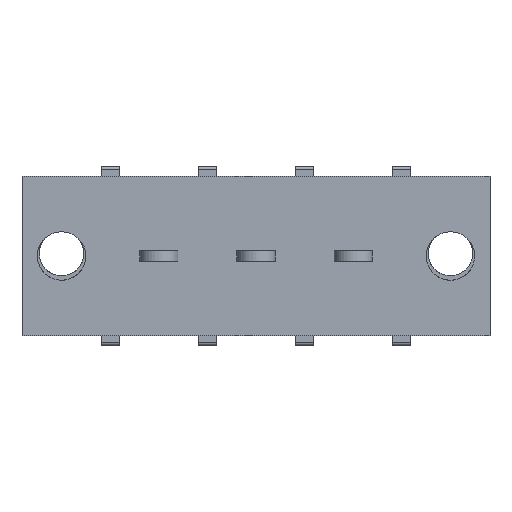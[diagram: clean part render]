
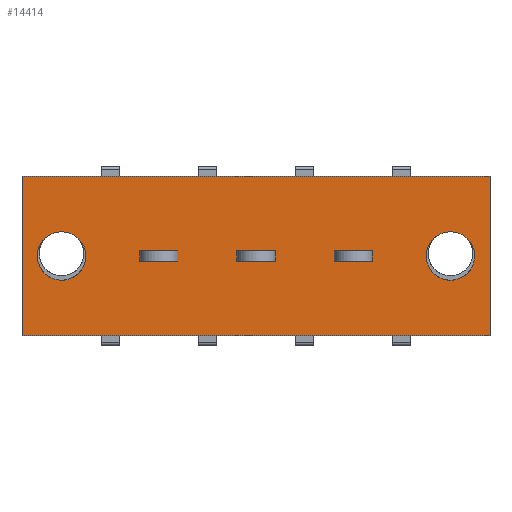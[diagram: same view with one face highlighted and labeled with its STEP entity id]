
A CAD part, front view. The second image highlights one B-rep face of the part: STEP entity #14414.
In plain terms, the highlighted planar face has unit normal (0, -1, 0).
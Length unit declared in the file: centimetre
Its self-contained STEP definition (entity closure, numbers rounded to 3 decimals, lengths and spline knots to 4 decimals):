
#753=PLANE('',#23505);
#1506=VECTOR('',#15564,1.);
#1701=VECTOR('',#15984,1.);
#1716=VECTOR('',#16003,1.);
#1730=VECTOR('',#16054,1.);
#1732=VECTOR('',#16057,1.);
#1781=VECTOR('',#16152,1.);
#1790=VECTOR('',#16164,1.);
#1791=VECTOR('',#16165,1.);
#1792=VECTOR('',#16166,1.);
#1793=VECTOR('',#16167,1.);
#1794=VECTOR('',#16168,1.);
#1795=VECTOR('',#16169,1.);
#1796=VECTOR('',#16170,1.);
#1797=VECTOR('',#16171,1.);
#1798=VECTOR('',#16172,1.);
#1799=VECTOR('',#16173,1.);
#3110=LINE('',#19343,#1506);
#3305=LINE('',#19958,#1701);
#3320=LINE('',#19991,#1716);
#3334=LINE('',#20040,#1730);
#3336=LINE('',#20044,#1732);
#3385=LINE('',#20165,#1781);
#3394=LINE('',#20184,#1790);
#3395=LINE('',#20187,#1791);
#3396=LINE('',#20189,#1792);
#3397=LINE('',#20191,#1793);
#3398=LINE('',#20192,#1794);
#3399=LINE('',#20195,#1795);
#3400=LINE('',#20197,#1796);
#3401=LINE('',#20199,#1797);
#3402=LINE('',#20200,#1798);
#3403=LINE('',#20202,#1799);
#4647=VERTEX_POINT('',#19342);
#4648=VERTEX_POINT('',#19344);
#4649=VERTEX_POINT('',#19348);
#4843=VERTEX_POINT('',#19959);
#4844=VERTEX_POINT('',#19960);
#4857=VERTEX_POINT('',#19992);
#4870=VERTEX_POINT('',#20041);
#4913=VERTEX_POINT('',#20166);
#4920=VERTEX_POINT('',#20183);
#4921=VERTEX_POINT('',#20185);
#4922=VERTEX_POINT('',#20186);
#4923=VERTEX_POINT('',#20188);
#4924=VERTEX_POINT('',#20190);
#4925=VERTEX_POINT('',#20193);
#4926=VERTEX_POINT('',#20194);
#4927=VERTEX_POINT('',#20196);
#4928=VERTEX_POINT('',#20198);
#4929=VERTEX_POINT('',#20201);
#5706=CIRCLE('',#23300,0.19);
#5780=CIRCLE('',#23506,0.19);
#6452=EDGE_CURVE('',#4648,#4647,#3110,.T.);
#6454=EDGE_CURVE('',#4649,#4649,#5706,.T.);
#6735=EDGE_CURVE('',#4843,#4844,#3305,.T.);
#6752=EDGE_CURVE('',#4857,#4843,#3320,.T.);
#6776=EDGE_CURVE('',#4870,#4857,#3334,.T.);
#6778=EDGE_CURVE('',#4844,#4870,#3336,.T.);
#6838=EDGE_CURVE('',#4913,#4647,#3385,.T.);
#6847=EDGE_CURVE('',#4920,#4920,#5780,.T.);
#6848=EDGE_CURVE('',#4921,#4922,#3394,.T.);
#6849=EDGE_CURVE('',#4922,#4923,#3395,.T.);
#6850=EDGE_CURVE('',#4923,#4924,#3396,.T.);
#6851=EDGE_CURVE('',#4924,#4921,#3397,.T.);
#6852=EDGE_CURVE('',#4925,#4926,#3398,.T.);
#6853=EDGE_CURVE('',#4926,#4927,#3399,.T.);
#6854=EDGE_CURVE('',#4927,#4928,#3400,.T.);
#6855=EDGE_CURVE('',#4928,#4925,#3401,.T.);
#6856=EDGE_CURVE('',#4929,#4648,#3402,.T.);
#6857=EDGE_CURVE('',#4929,#4913,#3403,.T.);
#9839=ORIENTED_EDGE('',*,*,#6454,.T.);
#9840=ORIENTED_EDGE('',*,*,#6847,.T.);
#9841=ORIENTED_EDGE('',*,*,#6752,.F.);
#9842=ORIENTED_EDGE('',*,*,#6776,.F.);
#9843=ORIENTED_EDGE('',*,*,#6778,.F.);
#9844=ORIENTED_EDGE('',*,*,#6735,.F.);
#9845=ORIENTED_EDGE('',*,*,#6848,.T.);
#9846=ORIENTED_EDGE('',*,*,#6849,.T.);
#9847=ORIENTED_EDGE('',*,*,#6850,.T.);
#9848=ORIENTED_EDGE('',*,*,#6851,.T.);
#9849=ORIENTED_EDGE('',*,*,#6852,.T.);
#9850=ORIENTED_EDGE('',*,*,#6853,.T.);
#9851=ORIENTED_EDGE('',*,*,#6854,.T.);
#9852=ORIENTED_EDGE('',*,*,#6855,.T.);
#9853=ORIENTED_EDGE('',*,*,#6856,.T.);
#9854=ORIENTED_EDGE('',*,*,#6452,.T.);
#9855=ORIENTED_EDGE('',*,*,#6838,.F.);
#9856=ORIENTED_EDGE('',*,*,#6857,.F.);
#12681=EDGE_LOOP('',(#9839));
#12682=EDGE_LOOP('',(#9840));
#12683=EDGE_LOOP('',(#9841,#9842,#9843,#9844));
#12684=EDGE_LOOP('',(#9845,#9846,#9847,#9848));
#12685=EDGE_LOOP('',(#9849,#9850,#9851,#9852));
#12686=EDGE_LOOP('',(#9853,#9854,#9855,#9856));
#13567=FACE_BOUND('',#12681,.T.);
#13568=FACE_BOUND('',#12682,.T.);
#13569=FACE_BOUND('',#12683,.T.);
#13570=FACE_BOUND('',#12684,.T.);
#13571=FACE_BOUND('',#12685,.T.);
#13572=FACE_BOUND('',#12686,.T.);
#14414=ADVANCED_FACE('',(#13567,#13568,#13569,#13570,#13571,#13572),#753,
 .T.);
#15564=DIRECTION('',(0.,0.,1.));
#15568=DIRECTION('',(0.,1.,0.));
#15569=DIRECTION('',(0.19,0.,0.));
#15984=DIRECTION('',(0.,0.,1.));
#16003=DIRECTION('',(1.,0.,0.));
#16054=DIRECTION('',(0.,0.,-1.));
#16057=DIRECTION('',(-1.,0.,0.));
#16152=DIRECTION('',(1.,0.,0.));
#16161=DIRECTION('',(0.,-1.,0.));
#16162=DIRECTION('',(0.,1.,0.));
#16163=DIRECTION('',(0.19,0.,0.));
#16164=DIRECTION('',(-1.,0.,0.));
#16165=DIRECTION('',(0.,0.,1.));
#16166=DIRECTION('',(1.,0.,0.));
#16167=DIRECTION('',(0.,0.,-1.));
#16168=DIRECTION('',(-1.,0.,0.));
#16169=DIRECTION('',(0.,0.,1.));
#16170=DIRECTION('',(1.,0.,0.));
#16171=DIRECTION('',(0.,0.,-1.));
#16172=DIRECTION('',(1.,0.,0.));
#16173=DIRECTION('',(0.,0.,1.));
#19342=CARTESIAN_POINT('',(2.286,0.,0.625));
#19343=CARTESIAN_POINT('',(2.286,0.,-0.625));
#19344=CARTESIAN_POINT('',(2.286,0.,-0.625));
#19347=CARTESIAN_POINT('',(1.976,0.,0.));
#19348=CARTESIAN_POINT('',(1.786,0.,0.));
#19958=CARTESIAN_POINT('',(-0.185,0.,0.));
#19959=CARTESIAN_POINT('',(-0.185,0.,-0.04));
#19960=CARTESIAN_POINT('',(-0.185,0.,0.04));
#19991=CARTESIAN_POINT('',(-0.465,0.,-0.04));
#19992=CARTESIAN_POINT('',(-0.435,0.,-0.04));
#20040=CARTESIAN_POINT('',(-0.435,0.,0.));
#20041=CARTESIAN_POINT('',(-0.435,0.,0.04));
#20044=CARTESIAN_POINT('',(-0.465,0.,0.04));
#20165=CARTESIAN_POINT('',(-1.382,0.,0.625));
#20166=CARTESIAN_POINT('',(-1.382,0.,0.625));
#20181=CARTESIAN_POINT('',(0.,0.,0.));
#20182=CARTESIAN_POINT('',(-1.072,0.,0.));
#20183=CARTESIAN_POINT('',(-1.262,0.,0.));
#20184=CARTESIAN_POINT('',(0.607,0.,-0.04));
#20185=CARTESIAN_POINT('',(1.339,0.,-0.04));
#20186=CARTESIAN_POINT('',(1.089,0.,-0.04));
#20187=CARTESIAN_POINT('',(1.089,0.,0.));
#20188=CARTESIAN_POINT('',(1.089,0.,0.04));
#20189=CARTESIAN_POINT('',(0.607,0.,0.04));
#20190=CARTESIAN_POINT('',(1.339,0.,0.04));
#20191=CARTESIAN_POINT('',(1.339,0.,0.));
#20192=CARTESIAN_POINT('',(0.226,0.,-0.04));
#20193=CARTESIAN_POINT('',(0.577,0.,-0.04));
#20194=CARTESIAN_POINT('',(0.327,0.,-0.04));
#20195=CARTESIAN_POINT('',(0.327,0.,0.));
#20196=CARTESIAN_POINT('',(0.327,0.,0.04));
#20197=CARTESIAN_POINT('',(0.226,0.,0.04));
#20198=CARTESIAN_POINT('',(0.577,0.,0.04));
#20199=CARTESIAN_POINT('',(0.577,0.,0.));
#20200=CARTESIAN_POINT('',(-1.382,0.,-0.625));
#20201=CARTESIAN_POINT('',(-1.382,0.,-0.625));
#20202=CARTESIAN_POINT('',(-1.382,0.,-0.625));
#23300=AXIS2_PLACEMENT_3D('',#19347,#15568,#15569);
#23505=AXIS2_PLACEMENT_3D('',#20181,#16161,$);
#23506=AXIS2_PLACEMENT_3D('',#20182,#16162,#16163);
